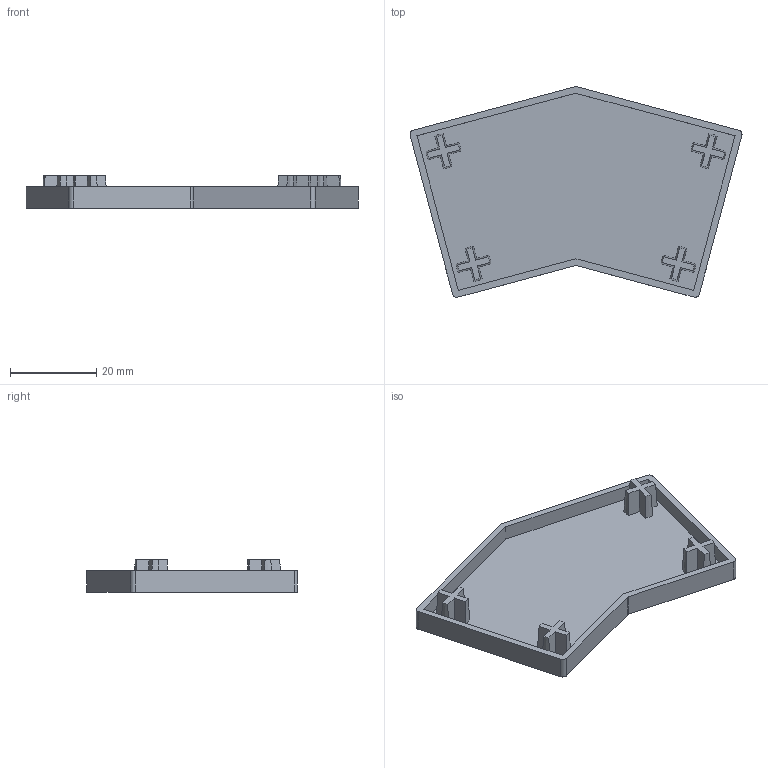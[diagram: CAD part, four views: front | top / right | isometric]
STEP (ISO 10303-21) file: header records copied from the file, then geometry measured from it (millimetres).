
FILE_DESCRIPTION (( 'STEP AP203' ), '1' );
FILE_NAME ('EC40150-8.STEP', '2024-02-19T06:07:45', ( '' ), ( '' ), 'SwSTEP 2.0', 'SolidWorks 2022', '' );
FILE_SCHEMA (( 'CONFIG_CONTROL_DESIGN' ));
Length unit declared in the file: millimetre
Products named in the file (1): EC40150-8
Bounding box: 76.82 x 48.72 x 7.5 mm (x, y, z)
Volume: 5817.8 mm3; surface area: 8032.2 mm2
Topology: 1 solids, 1 shells, 74 faces, 201 edges, 134 vertices
Faces by surface type: plane 51, cone 16, cylinder 7
Entity records: 2440 total; most frequent: CARTESIAN_POINT 506, ORIENTED_EDGE 402, DIRECTION 365, EDGE_CURVE 201, VERTEX_POINT 134, LINE 123, VECTOR 123, AXIS2_PLACEMENT_3D 121
